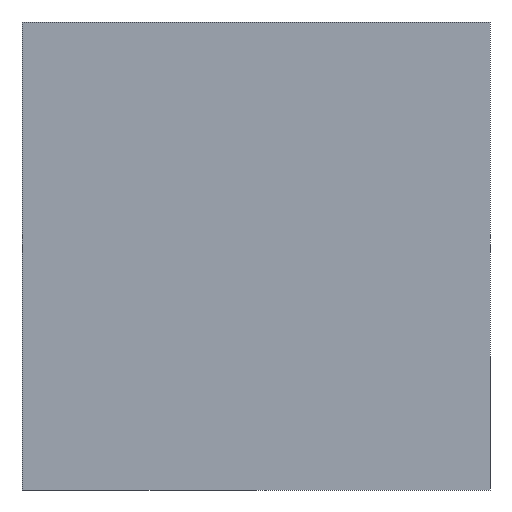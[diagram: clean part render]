
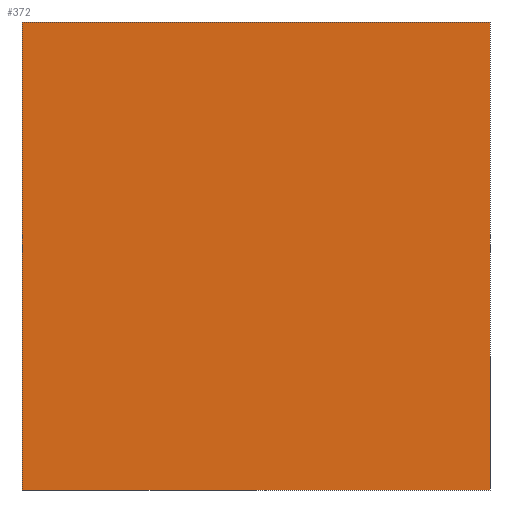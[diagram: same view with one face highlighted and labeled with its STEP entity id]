
A CAD part, left-side view. The second image highlights one B-rep face of the part: STEP entity #372.
In plain terms, the highlighted planar face has unit normal (-1, 0, 0).
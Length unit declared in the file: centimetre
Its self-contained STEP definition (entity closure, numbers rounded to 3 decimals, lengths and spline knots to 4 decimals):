
#6 = FACE_OUTER_BOUND ( 'NONE', #479, .T. ) ;
#45 = CARTESIAN_POINT ( 'NONE',  ( 0., 1000., 1000. ) ) ;
#46 = ORIENTED_EDGE ( 'NONE', *, *, #237, .T. ) ;
#59 = ORIENTED_EDGE ( 'NONE', *, *, #398, .F. ) ;
#66 = DIRECTION ( 'NONE',  ( 0., 0., -1. ) ) ;
#76 = CARTESIAN_POINT ( 'NONE',  ( 0., 0., 1000. ) ) ;
#101 = LINE ( 'NONE', #253, #322 ) ;
#113 = DIRECTION ( 'NONE',  ( 0., -1., 0. ) ) ;
#120 = DIRECTION ( 'NONE',  ( 1., 0., 0. ) ) ;
#129 = VECTOR ( 'NONE', #113, 100. ) ;
#145 = DIRECTION ( 'NONE',  ( 0., 0., -1. ) ) ;
#148 = LINE ( 'NONE', #199, #419 ) ;
#186 = LINE ( 'NONE', #76, #485 ) ;
#199 = CARTESIAN_POINT ( 'NONE',  ( 0., 1000., 1000. ) ) ;
#204 = VERTEX_POINT ( 'NONE', #334 ) ;
#222 = DIRECTION ( 'NONE',  ( 0., -1., 0. ) ) ;
#231 = LINE ( 'NONE', #503, #129 ) ;
#237 = EDGE_CURVE ( 'NONE', #389, #261, #101, .T. ) ;
#253 = CARTESIAN_POINT ( 'NONE',  ( 0., 1000., 1000. ) ) ;
#261 = VERTEX_POINT ( 'NONE', #262 ) ;
#262 = CARTESIAN_POINT ( 'NONE',  ( 0., 1000., 0. ) ) ;
#272 = EDGE_CURVE ( 'NONE', #261, #204, #231, .T. ) ;
#281 = ORIENTED_EDGE ( 'NONE', *, *, #272, .T. ) ;
#300 = PLANE ( 'NONE',  #343 ) ;
#312 = EDGE_CURVE ( 'NONE', #389, #319, #148, .T. ) ;
#313 = ORIENTED_EDGE ( 'NONE', *, *, #312, .F. ) ;
#314 = CARTESIAN_POINT ( 'NONE',  ( 0., 0., 1000. ) ) ;
#319 = VERTEX_POINT ( 'NONE', #314 ) ;
#322 = VECTOR ( 'NONE', #66, 100. ) ;
#334 = CARTESIAN_POINT ( 'NONE',  ( 0., 0., 0. ) ) ;
#343 = AXIS2_PLACEMENT_3D ( 'NONE', #426, #120, #469 ) ;
#372 = ADVANCED_FACE ( 'NONE', ( #6 ), #300, .F. ) ;
#389 = VERTEX_POINT ( 'NONE', #45 ) ;
#398 = EDGE_CURVE ( 'NONE', #319, #204, #186, .T. ) ;
#419 = VECTOR ( 'NONE', #222, 100. ) ;
#426 = CARTESIAN_POINT ( 'NONE',  ( 0., 1000., 1000. ) ) ;
#469 = DIRECTION ( 'NONE',  ( 0., 0., -1. ) ) ;
#479 = EDGE_LOOP ( 'NONE', ( #281, #59, #313, #46 ) ) ;
#485 = VECTOR ( 'NONE', #145, 100. ) ;
#503 = CARTESIAN_POINT ( 'NONE',  ( 0., 1000., 0. ) ) ;
